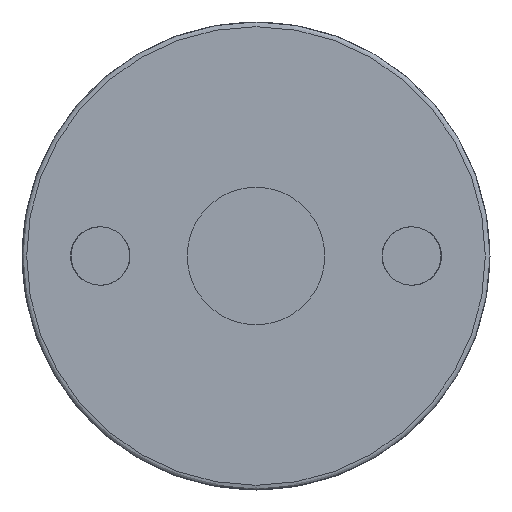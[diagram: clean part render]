
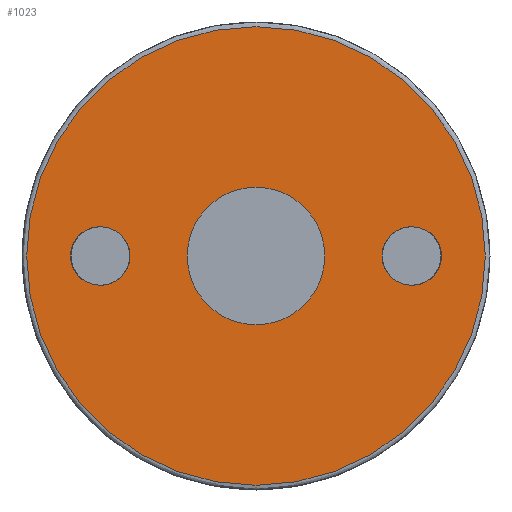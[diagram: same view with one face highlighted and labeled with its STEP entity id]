
A CAD part, front view. The second image highlights one B-rep face of the part: STEP entity #1023.
In plain terms, the highlighted planar face has unit normal (0, -1, 0).
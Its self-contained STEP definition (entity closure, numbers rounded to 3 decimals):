
#923=CARTESIAN_POINT('',(-62.852,61.857,0.0));
#924=VERTEX_POINT('',#923);
#932=CARTESIAN_POINT('',(35.148,61.857,0.0));
#933=VERTEX_POINT('',#932);
#934=CARTESIAN_POINT('',(-13.852,61.857,0.0));
#935=DIRECTION('',(0.0,1.0,0.0));
#936=DIRECTION('',(-1.0,0.0,0.0));
#937=AXIS2_PLACEMENT_3D('',#934,#935,#936);
#938=CIRCLE('',#937,49.0);
#939=EDGE_CURVE('',#924,#933,#938,.T.);
#941=CARTESIAN_POINT('',(-13.852,61.857,0.0));
#942=DIRECTION('',(0.0,1.0,0.0));
#943=DIRECTION('',(-1.0,0.0,0.0));
#944=AXIS2_PLACEMENT_3D('',#941,#942,#943);
#945=CIRCLE('',#944,49.0);
#946=EDGE_CURVE('',#933,#924,#945,.T.);
#954=CARTESIAN_POINT('',(-111.852,61.857,-98.0));
#955=DIRECTION('',(0.0,1.0,0.0));
#956=DIRECTION('',(0.0,0.0,1.0));
#957=AXIS2_PLACEMENT_3D('',#954,#955,#956);
#958=PLANE('',#957);
#959=ORIENTED_EDGE('',*,*,#946,.F.);
#960=ORIENTED_EDGE('',*,*,#939,.F.);
#961=EDGE_LOOP('',(#959,#960));
#962=FACE_OUTER_BOUND('',#961,.T.);
#963=CARTESIAN_POINT('',(-28.548,61.857,0.0));
#964=VERTEX_POINT('',#963);
#965=CARTESIAN_POINT('',(0.845,61.857,0.0));
#966=VERTEX_POINT('',#965);
#967=CARTESIAN_POINT('',(-13.852,61.857,0.0));
#968=DIRECTION('',(0.0,1.0,0.0));
#969=DIRECTION('',(-1.0,0.0,0.0));
#970=AXIS2_PLACEMENT_3D('',#967,#968,#969);
#971=CIRCLE('',#970,14.697);
#972=EDGE_CURVE('',#964,#966,#971,.T.);
#973=ORIENTED_EDGE('',*,*,#972,.T.);
#974=CARTESIAN_POINT('',(-13.852,61.857,0.0));
#975=DIRECTION('',(0.0,1.0,0.0));
#976=DIRECTION('',(-1.0,0.0,0.0));
#977=AXIS2_PLACEMENT_3D('',#974,#975,#976);
#978=CIRCLE('',#977,14.697);
#979=EDGE_CURVE('',#966,#964,#978,.T.);
#980=ORIENTED_EDGE('',*,*,#979,.T.);
#981=EDGE_LOOP('',(#973,#980));
#982=FACE_BOUND('',#981,.T.);
#983=CARTESIAN_POINT('',(-47.109,61.857,6.25));
#984=VERTEX_POINT('',#983);
#985=CARTESIAN_POINT('',(-47.109,61.857,-6.25));
#986=VERTEX_POINT('',#985);
#987=CARTESIAN_POINT('',(-47.109,61.857,0.0));
#988=DIRECTION('',(0.0,1.0,0.0));
#989=DIRECTION('',(1.0,0.0,0.0));
#990=AXIS2_PLACEMENT_3D('',#987,#988,#989);
#991=ELLIPSE('',#990,6.328,6.25);
#992=EDGE_CURVE('',#984,#986,#991,.T.);
#993=ORIENTED_EDGE('',*,*,#992,.T.);
#994=CARTESIAN_POINT('',(-47.109,61.857,0.0));
#995=DIRECTION('',(0.0,1.0,0.0));
#996=DIRECTION('',(1.0,0.0,0.0));
#997=AXIS2_PLACEMENT_3D('',#994,#995,#996);
#998=ELLIPSE('',#997,6.328,6.25);
#999=EDGE_CURVE('',#986,#984,#998,.T.);
#1000=ORIENTED_EDGE('',*,*,#999,.T.);
#1001=EDGE_LOOP('',(#993,#1000));
#1002=FACE_BOUND('',#1001,.T.);
#1003=CARTESIAN_POINT('',(19.406,61.857,6.25));
#1004=VERTEX_POINT('',#1003);
#1005=CARTESIAN_POINT('',(19.406,61.857,-6.25));
#1006=VERTEX_POINT('',#1005);
#1007=CARTESIAN_POINT('',(19.406,61.857,0.0));
#1008=DIRECTION('',(0.0,1.0,0.0));
#1009=DIRECTION('',(-1.0,0.0,0.0));
#1010=AXIS2_PLACEMENT_3D('',#1007,#1008,#1009);
#1011=ELLIPSE('',#1010,6.328,6.25);
#1012=EDGE_CURVE('',#1004,#1006,#1011,.T.);
#1013=ORIENTED_EDGE('',*,*,#1012,.T.);
#1014=CARTESIAN_POINT('',(19.406,61.857,0.0));
#1015=DIRECTION('',(0.0,1.0,0.0));
#1016=DIRECTION('',(-1.0,0.0,0.0));
#1017=AXIS2_PLACEMENT_3D('',#1014,#1015,#1016);
#1018=ELLIPSE('',#1017,6.328,6.25);
#1019=EDGE_CURVE('',#1006,#1004,#1018,.T.);
#1020=ORIENTED_EDGE('',*,*,#1019,.T.);
#1021=EDGE_LOOP('',(#1013,#1020));
#1022=FACE_BOUND('',#1021,.T.);
#1023=ADVANCED_FACE('',(#962,#982,#1002,#1022),#958,.F.);
